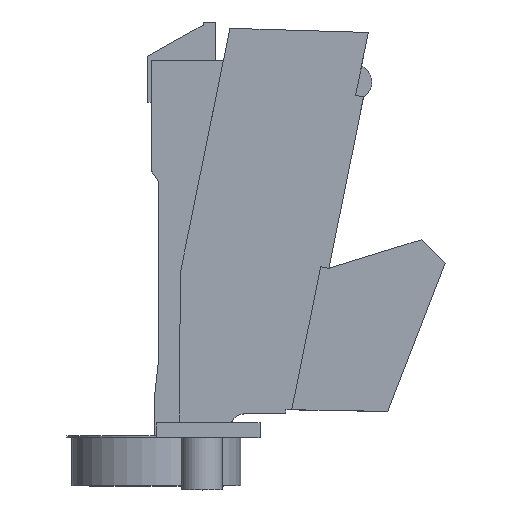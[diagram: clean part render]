
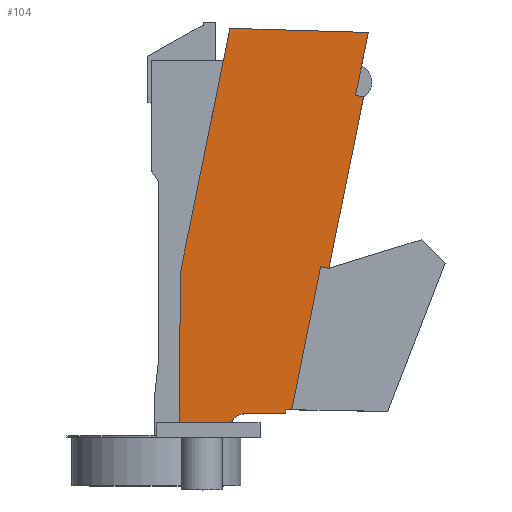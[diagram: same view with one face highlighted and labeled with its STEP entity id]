
A CAD part, top view. The second image highlights one B-rep face of the part: STEP entity #104.
In plain terms, the highlighted planar face has unit normal (0, 0, 1).
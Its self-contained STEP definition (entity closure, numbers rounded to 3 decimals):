
#5 = CARTESIAN_POINT ( 'NONE',  ( 32.38, -33.48, 12.1 ) ) ;
#13 = DIRECTION ( 'NONE',  ( -0.009, -1., 0. ) ) ;
#21 = EDGE_CURVE ( 'NONE', #1633, #1574, #1863, .T. ) ;
#31 = LINE ( 'NONE', #5, #992 ) ;
#33 = ORIENTED_EDGE ( 'NONE', *, *, #977, .F. ) ;
#39 = CARTESIAN_POINT ( 'NONE',  ( 48.023, 38.462, 12.1 ) ) ;
#52 = VERTEX_POINT ( 'NONE', #934 ) ;
#63 = ORIENTED_EDGE ( 'NONE', *, *, #1636, .T. ) ;
#88 = VERTEX_POINT ( 'NONE', #150 ) ;
#104 = ADVANCED_FACE ( 'NONE', ( #794 ), #290, .F. ) ;
#132 = LINE ( 'NONE', #1387, #1583 ) ;
#150 = CARTESIAN_POINT ( 'NONE',  ( 32.38, -33.48, 12.1 ) ) ;
#206 = ORIENTED_EDGE ( 'NONE', *, *, #756, .T. ) ;
#216 = CARTESIAN_POINT ( 'NONE',  ( 3.759, 4.165, 12.1 ) ) ;
#289 = EDGE_CURVE ( 'NONE', #1531, #52, #1629, .T. ) ;
#290 = PLANE ( 'NONE',  #1286 ) ;
#292 = VECTOR ( 'NONE', #1913, 1000. ) ;
#301 = CARTESIAN_POINT ( 'NONE',  ( 23.835, -35.5, 12.1 ) ) ;
#314 = LINE ( 'NONE', #1573, #1619 ) ;
#320 = LINE ( 'NONE', #1613, #1775 ) ;
#328 = VECTOR ( 'NONE', #603, 1000. ) ;
#367 = DIRECTION ( 'NONE',  ( 0., 1., 0. ) ) ;
#386 = VERTEX_POINT ( 'NONE', #1692 ) ;
#432 = DIRECTION ( 'NONE',  ( -0.199, -0.98, 0. ) ) ;
#442 = DIRECTION ( 'NONE',  ( 1., 0., 0. ) ) ;
#452 = LINE ( 'NONE', #2022, #564 ) ;
#510 = VERTEX_POINT ( 'NONE', #1526 ) ;
#549 = ORIENTED_EDGE ( 'NONE', *, *, #1050, .T. ) ;
#564 = VECTOR ( 'NONE', #432, 1000. ) ;
#573 = CARTESIAN_POINT ( 'NONE',  ( 39.589, -3.105, 12.1 ) ) ;
#603 = DIRECTION ( 'NONE',  ( 0.98, -0.199, 0. ) ) ;
#617 = CARTESIAN_POINT ( 'NONE',  ( 23.835, -36.58, 12.1 ) ) ;
#625 = VECTOR ( 'NONE', #764, 1000. ) ;
#666 = CARTESIAN_POINT ( 'NONE',  ( 32.38, -32.714, 12.1 ) ) ;
#733 = LINE ( 'NONE', #216, #1678 ) ;
#740 = ORIENTED_EDGE ( 'NONE', *, *, #1581, .T. ) ;
#756 = EDGE_CURVE ( 'NONE', #386, #1357, #1940, .T. ) ;
#764 = DIRECTION ( 'NONE',  ( -0.199, -0.98, 0. ) ) ;
#778 = DIRECTION ( 'NONE',  ( 0.199, 0.98, 0. ) ) ;
#784 = CARTESIAN_POINT ( 'NONE',  ( 20.765, 46.271, 12.1 ) ) ;
#789 = CARTESIAN_POINT ( 'NONE',  ( 10.961, 39.659, 12.1 ) ) ;
#794 = FACE_OUTER_BOUND ( 'NONE', #1190, .T. ) ;
#819 = ORIENTED_EDGE ( 'NONE', *, *, #289, .T. ) ;
#843 = ORIENTED_EDGE ( 'NONE', *, *, #1362, .T. ) ;
#848 = EDGE_CURVE ( 'NONE', #1296, #1143, #733, .T. ) ;
#849 = CARTESIAN_POINT ( 'NONE',  ( 32.38, -32.714, 12.1 ) ) ;
#855 = DIRECTION ( 'NONE',  ( 1., -0.017, 0. ) ) ;
#862 = VECTOR ( 'NONE', #13, 1000. ) ;
#899 = EDGE_CURVE ( 'NONE', #1574, #510, #1637, .T. ) ;
#907 = CARTESIAN_POINT ( 'NONE',  ( 21.036, -35.5, 12.1 ) ) ;
#918 = VECTOR ( 'NONE', #855, 1000. ) ;
#926 = DIRECTION ( 'NONE',  ( -1., 0.03, 0. ) ) ;
#934 = CARTESIAN_POINT ( 'NONE',  ( 33.577, -32.735, 12.1 ) ) ;
#968 = EDGE_CURVE ( 'NONE', #510, #976, #1083, .T. ) ;
#976 = VERTEX_POINT ( 'NONE', #907 ) ;
#977 = EDGE_CURVE ( 'NONE', #386, #1652, #1097, .T. ) ;
#992 = VECTOR ( 'NONE', #367, 1000. ) ;
#1017 = ORIENTED_EDGE ( 'NONE', *, *, #968, .T. ) ;
#1050 = EDGE_CURVE ( 'NONE', #1965, #88, #320, .T. ) ;
#1083 = LINE ( 'NONE', #301, #1182 ) ;
#1097 = LINE ( 'NONE', #789, #328 ) ;
#1100 = DIRECTION ( 'NONE',  ( -1., 0., 0. ) ) ;
#1143 = VERTEX_POINT ( 'NONE', #1278 ) ;
#1150 = ORIENTED_EDGE ( 'NONE', *, *, #1356, .F. ) ;
#1175 = DIRECTION ( 'NONE',  ( 0.98, -0.199, 0. ) ) ;
#1182 = VECTOR ( 'NONE', #442, 1000. ) ;
#1190 = EDGE_LOOP ( 'NONE', ( #1665, #1017, #63, #549, #1464, #819, #843, #1242, #1150, #33, #206, #740, #1964 ) ) ;
#1198 = CARTESIAN_POINT ( 'NONE',  ( 10.52, -4.22, 12.1 ) ) ;
#1226 = DIRECTION ( 'NONE',  ( -1., 0., 0. ) ) ;
#1236 = DIRECTION ( 'NONE',  ( 0., 0., -1. ) ) ;
#1242 = ORIENTED_EDGE ( 'NONE', *, *, #848, .T. ) ;
#1253 = CARTESIAN_POINT ( 'NONE',  ( 48.457, 32.051, 12.1 ) ) ;
#1278 = CARTESIAN_POINT ( 'NONE',  ( 41.255, -3.443, 12.1 ) ) ;
#1286 = AXIS2_PLACEMENT_3D ( 'NONE', #617, #1236, #1100 ) ;
#1296 = VERTEX_POINT ( 'NONE', #573 ) ;
#1356 = EDGE_CURVE ( 'NONE', #1652, #1143, #452, .T. ) ;
#1357 = VERTEX_POINT ( 'NONE', #1368 ) ;
#1362 = EDGE_CURVE ( 'NONE', #52, #1296, #132, .T. ) ;
#1368 = CARTESIAN_POINT ( 'NONE',  ( 49.433, 45.41, 12.1 ) ) ;
#1381 = CARTESIAN_POINT ( 'NONE',  ( 23.8, -33.58, 12.1 ) ) ;
#1387 = CARTESIAN_POINT ( 'NONE',  ( 48.023, 38.462, 12.1 ) ) ;
#1464 = ORIENTED_EDGE ( 'NONE', *, *, #1784, .T. ) ;
#1526 = CARTESIAN_POINT ( 'NONE',  ( 10.242, -35.5, 12.1 ) ) ;
#1531 = VERTEX_POINT ( 'NONE', #666 ) ;
#1539 = CARTESIAN_POINT ( 'NONE',  ( 10.52, -4.22, 12.1 ) ) ;
#1553 = DIRECTION ( 'NONE',  ( 0., 0., -1. ) ) ;
#1573 = CARTESIAN_POINT ( 'NONE',  ( 49.433, 45.41, 12.1 ) ) ;
#1574 = VERTEX_POINT ( 'NONE', #1539 ) ;
#1580 = DIRECTION ( 'NONE',  ( 1., 0.012, 0. ) ) ;
#1581 = EDGE_CURVE ( 'NONE', #1357, #1633, #314, .T. ) ;
#1583 = VECTOR ( 'NONE', #778, 1000. ) ;
#1613 = CARTESIAN_POINT ( 'NONE',  ( 23.8, -33.58, 12.1 ) ) ;
#1619 = VECTOR ( 'NONE', #926, 1000. ) ;
#1622 = AXIS2_PLACEMENT_3D ( 'NONE', #2038, #1553, #1226 ) ;
#1629 = LINE ( 'NONE', #849, #918 ) ;
#1633 = VERTEX_POINT ( 'NONE', #784 ) ;
#1636 = EDGE_CURVE ( 'NONE', #976, #1965, #1910, .T. ) ;
#1637 = LINE ( 'NONE', #1198, #862 ) ;
#1652 = VERTEX_POINT ( 'NONE', #1253 ) ;
#1665 = ORIENTED_EDGE ( 'NONE', *, *, #899, .T. ) ;
#1678 = VECTOR ( 'NONE', #1175, 1000. ) ;
#1692 = CARTESIAN_POINT ( 'NONE',  ( 46.791, 32.389, 12.1 ) ) ;
#1775 = VECTOR ( 'NONE', #1580, 1000. ) ;
#1784 = EDGE_CURVE ( 'NONE', #88, #1531, #31, .T. ) ;
#1863 = LINE ( 'NONE', #2005, #625 ) ;
#1910 = CIRCLE ( 'NONE', #1622, 3. ) ;
#1913 = DIRECTION ( 'NONE',  ( 0.199, 0.98, 0. ) ) ;
#1940 = LINE ( 'NONE', #39, #292 ) ;
#1964 = ORIENTED_EDGE ( 'NONE', *, *, #21, .T. ) ;
#1965 = VERTEX_POINT ( 'NONE', #1381 ) ;
#2005 = CARTESIAN_POINT ( 'NONE',  ( 20.765, 46.271, 12.1 ) ) ;
#2022 = CARTESIAN_POINT ( 'NONE',  ( 41.255, -3.443, 12.1 ) ) ;
#2038 = CARTESIAN_POINT ( 'NONE',  ( 23.835, -36.58, 12.1 ) ) ;
